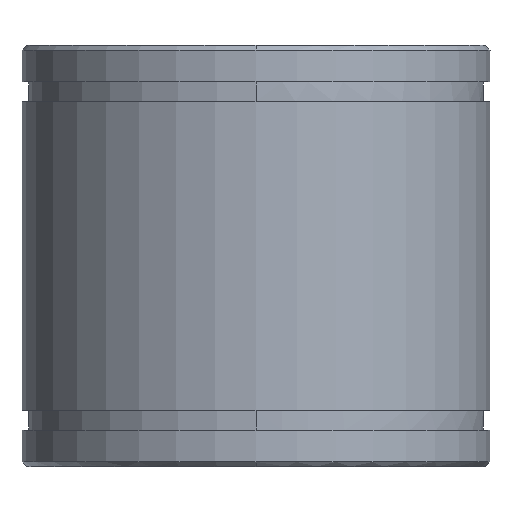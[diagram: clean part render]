
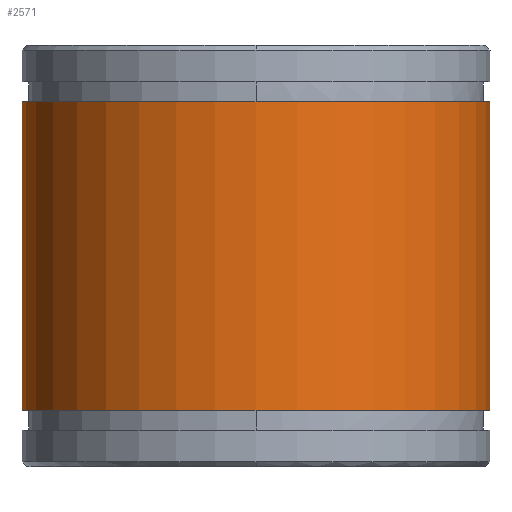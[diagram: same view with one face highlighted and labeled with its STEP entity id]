
A CAD part, front view. The second image highlights one B-rep face of the part: STEP entity #2571.
In plain terms, the highlighted cylindrical face has radius 25 mm (diameter 50 mm), a partial arc.
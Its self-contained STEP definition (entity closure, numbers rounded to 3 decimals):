
#1602=CARTESIAN_POINT('Axis2P3D Location',(0.,0.,39.)) ;
#1606=CARTESIAN_POINT('Vertex',(-25.,0.,39.)) ;
#1608=CARTESIAN_POINT('Vertex',(25.,0.,39.)) ;
#2541=CARTESIAN_POINT('Axis2P3D Location',(0.,0.,-2.25)) ;
#2546=CARTESIAN_POINT('Line Origine',(25.,0.,-2.25)) ;
#2550=CARTESIAN_POINT('Vertex',(25.,0.,6.)) ;
#2553=CARTESIAN_POINT('Line Origine',(-25.,0.,-2.25)) ;
#2557=CARTESIAN_POINT('Vertex',(-25.,0.,6.)) ;
#2560=CARTESIAN_POINT('Axis2P3D Location',(0.,0.,6.)) ;
#1603=DIRECTION('Axis2P3D Direction',(0.,-0.,1.)) ;
#2542=DIRECTION('Axis2P3D Direction',(0.,0.,1.)) ;
#2543=DIRECTION('Axis2P3D XDirection',(-1.,0.,0.)) ;
#2547=DIRECTION('Vector Direction',(0.,0.,1.)) ;
#2554=DIRECTION('Vector Direction',(0.,0.,1.)) ;
#2561=DIRECTION('Axis2P3D Direction',(0.,0.,1.)) ;
#1604=AXIS2_PLACEMENT_3D('Circle Axis2P3D',#1602,#1603,$) ;
#2544=AXIS2_PLACEMENT_3D('Cylinder Axis2P3D',#2541,#2542,#2543) ;
#2562=AXIS2_PLACEMENT_3D('Circle Axis2P3D',#2560,#2561,$) ;
#2566=ORIENTED_EDGE('',*,*,#2552,.F.) ;
#2567=ORIENTED_EDGE('',*,*,#1610,.F.) ;
#2568=ORIENTED_EDGE('',*,*,#2559,.T.) ;
#2569=ORIENTED_EDGE('',*,*,#2564,.F.) ;
#2548=VECTOR('Line Direction',#2547,1.) ;
#2555=VECTOR('Line Direction',#2554,1.) ;
#2571=ADVANCED_FACE('MANIFOLD_SOLID_BREP #2432',(#2570),#2545,.T.) ;
#1605=CIRCLE('generated circle',#1604,25.) ;
#2563=CIRCLE('generated circle',#2562,25.) ;
#2545=CYLINDRICAL_SURFACE('generated cylinder',#2544,25.) ;
#1610=EDGE_CURVE('',#1607,#1609,#1605,.T.) ;
#2552=EDGE_CURVE('',#1609,#2551,#2549,.F.) ;
#2559=EDGE_CURVE('',#1607,#2558,#2556,.F.) ;
#2564=EDGE_CURVE('',#2551,#2558,#2563,.F.) ;
#2565=EDGE_LOOP('',(#2566,#2567,#2568,#2569)) ;
#2570=FACE_OUTER_BOUND('',#2565,.T.) ;
#2549=LINE('Line',#2546,#2548) ;
#2556=LINE('Line',#2553,#2555) ;
#1607=VERTEX_POINT('',#1606) ;
#1609=VERTEX_POINT('',#1608) ;
#2551=VERTEX_POINT('',#2550) ;
#2558=VERTEX_POINT('',#2557) ;
